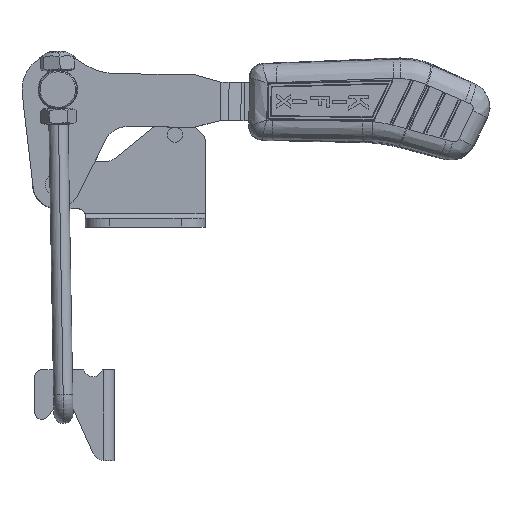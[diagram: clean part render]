
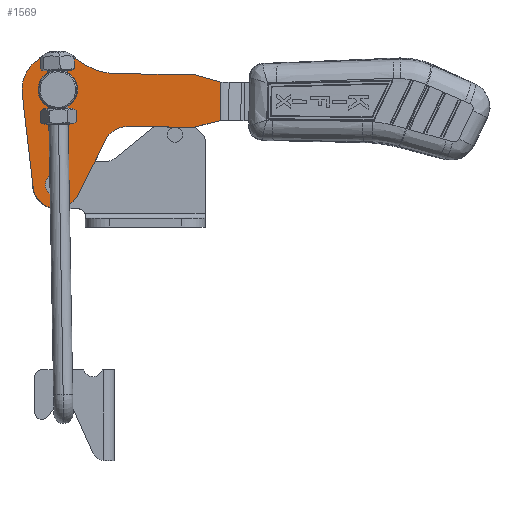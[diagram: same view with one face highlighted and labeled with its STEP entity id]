
A CAD part, top view. The second image highlights one B-rep face of the part: STEP entity #1569.
In plain terms, the highlighted planar face has unit normal (0, 0, 1).
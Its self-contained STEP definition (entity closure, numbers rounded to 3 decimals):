
#119 = VERTEX_POINT ( 'NONE', #25333 ) ;
#442 = CARTESIAN_POINT ( 'NONE',  ( -120.981, 11., 8.5 ) ) ;
#639 = AXIS2_PLACEMENT_3D ( 'NONE', #8387, #5442, #19912 ) ;
#675 = ORIENTED_EDGE ( 'NONE', *, *, #24938, .T. ) ;
#1003 = ORIENTED_EDGE ( 'NONE', *, *, #5785, .T. ) ;
#1070 = DIRECTION ( 'NONE',  ( 0., 0., -1. ) ) ;
#1242 = CARTESIAN_POINT ( 'NONE',  ( -76.974, 0., 8.5 ) ) ;
#1569 = ADVANCED_FACE ( 'NONE', ( #7116, #22292, #21678 ), #11172, .F. ) ;
#1775 = CIRCLE ( 'NONE', #2156, 4. ) ;
#1977 = VERTEX_POINT ( 'NONE', #10854 ) ;
#1990 = CARTESIAN_POINT ( 'NONE',  ( -76.598, -7.95, 8.5 ) ) ;
#2156 = AXIS2_PLACEMENT_3D ( 'NONE', #10132, #18004, #10976 ) ;
#2225 = VERTEX_POINT ( 'NONE', #12996 ) ;
#2306 = DIRECTION ( 'NONE',  ( 0.436, 0.9, 0. ) ) ;
#2315 = ORIENTED_EDGE ( 'NONE', *, *, #3056, .F. ) ;
#2505 = VECTOR ( 'NONE', #17842, 1000. ) ;
#2530 = VERTEX_POINT ( 'NONE', #19256 ) ;
#3056 = EDGE_CURVE ( 'NONE', #22996, #23607, #1775, .T. ) ;
#3894 = EDGE_CURVE ( 'NONE', #18681, #1977, #22221, .T. ) ;
#3987 = VERTEX_POINT ( 'NONE', #8369 ) ;
#4506 = DIRECTION ( 'NONE',  ( 0., 0., 1. ) ) ;
#4761 = VECTOR ( 'NONE', #2306, 1000. ) ;
#4939 = LINE ( 'NONE', #1242, #14855 ) ;
#5442 = DIRECTION ( 'NONE',  ( 0., 0., -1. ) ) ;
#5453 = ORIENTED_EDGE ( 'NONE', *, *, #3894, .T. ) ;
#5785 = EDGE_CURVE ( 'NONE', #20812, #119, #20002, .T. ) ;
#5800 = AXIS2_PLACEMENT_3D ( 'NONE', #16407, #4506, #18384 ) ;
#6066 = DIRECTION ( 'NONE',  ( 0.129, -0.992, 0. ) ) ;
#6479 = LINE ( 'NONE', #23799, #11138 ) ;
#6836 = AXIS2_PLACEMENT_3D ( 'NONE', #9842, #15803, #21691 ) ;
#6840 = CARTESIAN_POINT ( 'NONE',  ( -144.981, -35.8, 8.5 ) ) ;
#7116 = FACE_OUTER_BOUND ( 'NONE', #10924, .T. ) ;
#7522 = EDGE_CURVE ( 'NONE', #14761, #3987, #17877, .T. ) ;
#7583 = CARTESIAN_POINT ( 'NONE',  ( -120.981, 36., 8.5 ) ) ;
#8149 = EDGE_CURVE ( 'NONE', #23607, #22996, #24925, .T. ) ;
#8281 = CARTESIAN_POINT ( 'NONE',  ( -135.981, 16., 8.5 ) ) ;
#8369 = CARTESIAN_POINT ( 'NONE',  ( -136.731, 4., 8.5 ) ) ;
#8387 = CARTESIAN_POINT ( 'NONE',  ( 1.019, 0., 8.5 ) ) ;
#8400 = ORIENTED_EDGE ( 'NONE', *, *, #10123, .T. ) ;
#8570 = CARTESIAN_POINT ( 'NONE',  ( -87.981, 11., 8.5 ) ) ;
#8587 = EDGE_CURVE ( 'NONE', #9346, #9775, #18770, .T. ) ;
#8825 = ORIENTED_EDGE ( 'NONE', *, *, #11549, .F. ) ;
#8856 = DIRECTION ( 'NONE',  ( 1., 0., 0. ) ) ;
#9219 = CARTESIAN_POINT ( 'NONE',  ( 1.019, 11., 8.5 ) ) ;
#9346 = VERTEX_POINT ( 'NONE', #15707 ) ;
#9426 = LINE ( 'NONE', #10219, #4761 ) ;
#9482 = VECTOR ( 'NONE', #22391, 1000. ) ;
#9589 = DIRECTION ( 'NONE',  ( 1., 0., 0. ) ) ;
#9775 = VERTEX_POINT ( 'NONE', #11276 ) ;
#9842 = CARTESIAN_POINT ( 'NONE',  ( -144.981, 4., 8.5 ) ) ;
#10123 = EDGE_CURVE ( 'NONE', #119, #11189, #9426, .T. ) ;
#10132 = CARTESIAN_POINT ( 'NONE',  ( -144.981, -35.8, 8.5 ) ) ;
#10175 = ORIENTED_EDGE ( 'NONE', *, *, #12132, .T. ) ;
#10219 = CARTESIAN_POINT ( 'NONE',  ( -136.092, -40.101, 8.5 ) ) ;
#10309 = CARTESIAN_POINT ( 'NONE',  ( -153.231, 4., 8.5 ) ) ;
#10854 = CARTESIAN_POINT ( 'NONE',  ( -159.856, 2.069, 8.5 ) ) ;
#10924 = EDGE_LOOP ( 'NONE', ( #11370, #23559, #675, #25052, #5453, #11059, #1003, #8400, #21494, #10175, #8825 ) ) ;
#10976 = DIRECTION ( 'NONE',  ( 1., 0., 0. ) ) ;
#11059 = ORIENTED_EDGE ( 'NONE', *, *, #23606, .T. ) ;
#11138 = VECTOR ( 'NONE', #6066, 1000. ) ;
#11172 = PLANE ( 'NONE',  #639 ) ;
#11189 = VERTEX_POINT ( 'NONE', #22268 ) ;
#11201 = EDGE_CURVE ( 'NONE', #3987, #14761, #24832, .T. ) ;
#11276 = CARTESIAN_POINT ( 'NONE',  ( -76.974, 8.051, 8.5 ) ) ;
#11329 = CARTESIAN_POINT ( 'NONE',  ( -144.981, 4., 8.5 ) ) ;
#11370 = ORIENTED_EDGE ( 'NONE', *, *, #23328, .T. ) ;
#11549 = EDGE_CURVE ( 'NONE', #2530, #2225, #16511, .T. ) ;
#12132 = EDGE_CURVE ( 'NONE', #12236, #2225, #18347, .T. ) ;
#12236 = VERTEX_POINT ( 'NONE', #19999 ) ;
#12470 = CIRCLE ( 'NONE', #14630, 10. ) ;
#12553 = AXIS2_PLACEMENT_3D ( 'NONE', #6840, #20705, #8856 ) ;
#12947 = CARTESIAN_POINT ( 'NONE',  ( -115.74, -21., 8.5 ) ) ;
#12996 = CARTESIAN_POINT ( 'NONE',  ( -87.981, -11., 8.5 ) ) ;
#13294 = DIRECTION ( 'NONE',  ( 1., 0., 0. ) ) ;
#13935 = DIRECTION ( 'NONE',  ( 0., 0., 1. ) ) ;
#13945 = CARTESIAN_POINT ( 'NONE',  ( -140.981, -35.8, 8.5 ) ) ;
#14346 = VERTEX_POINT ( 'NONE', #442 ) ;
#14630 = AXIS2_PLACEMENT_3D ( 'NONE', #12947, #1070, #14951 ) ;
#14670 = AXIS2_PLACEMENT_3D ( 'NONE', #16154, #13935, #14825 ) ;
#14761 = VERTEX_POINT ( 'NONE', #10309 ) ;
#14825 = DIRECTION ( 'NONE',  ( 1., 0., 0. ) ) ;
#14855 = VECTOR ( 'NONE', #22986, 1000. ) ;
#14951 = DIRECTION ( 'NONE',  ( 1., 0., 0. ) ) ;
#15654 = CARTESIAN_POINT ( 'NONE',  ( -148.981, -35.8, 8.5 ) ) ;
#15707 = CARTESIAN_POINT ( 'NONE',  ( -87.981, 11., 8.5 ) ) ;
#15777 = EDGE_LOOP ( 'NONE', ( #18186, #25071 ) ) ;
#15803 = DIRECTION ( 'NONE',  ( 0., 0., 1. ) ) ;
#15841 = CARTESIAN_POINT ( 'NONE',  ( 1.019, -11., 8.5 ) ) ;
#16154 = CARTESIAN_POINT ( 'NONE',  ( -144.981, -35.8, 8.5 ) ) ;
#16407 = CARTESIAN_POINT ( 'NONE',  ( -144.981, 4., 8.5 ) ) ;
#16511 = LINE ( 'NONE', #1990, #25121 ) ;
#17309 = CARTESIAN_POINT ( 'NONE',  ( -154.774, -37.072, 8.5 ) ) ;
#17842 = DIRECTION ( 'NONE',  ( 1., 0., 0. ) ) ;
#17877 = CIRCLE ( 'NONE', #25427, 8.25 ) ;
#18004 = DIRECTION ( 'NONE',  ( 0., 0., 1. ) ) ;
#18172 = AXIS2_PLACEMENT_3D ( 'NONE', #7583, #21429, #9589 ) ;
#18186 = ORIENTED_EDGE ( 'NONE', *, *, #11201, .F. ) ;
#18347 = LINE ( 'NONE', #15841, #2505 ) ;
#18384 = DIRECTION ( 'NONE',  ( 1., 0., 0. ) ) ;
#18681 = VERTEX_POINT ( 'NONE', #8281 ) ;
#18770 = LINE ( 'NONE', #8570, #9482 ) ;
#18844 = VECTOR ( 'NONE', #21071, 1000. ) ;
#18900 = CIRCLE ( 'NONE', #18172, 25. ) ;
#19256 = CARTESIAN_POINT ( 'NONE',  ( -76.974, -8.051, 8.5 ) ) ;
#19912 = DIRECTION ( 'NONE',  ( 1., 0., 0. ) ) ;
#19999 = CARTESIAN_POINT ( 'NONE',  ( -115.74, -11., 8.5 ) ) ;
#20002 = CIRCLE ( 'NONE', #14670, 9.875 ) ;
#20688 = EDGE_CURVE ( 'NONE', #11189, #12236, #12470, .T. ) ;
#20705 = DIRECTION ( 'NONE',  ( 0., 0., 1. ) ) ;
#20812 = VERTEX_POINT ( 'NONE', #17309 ) ;
#21071 = DIRECTION ( 'NONE',  ( -1., 0., 0. ) ) ;
#21429 = DIRECTION ( 'NONE',  ( 0., 0., -1. ) ) ;
#21494 = ORIENTED_EDGE ( 'NONE', *, *, #20688, .T. ) ;
#21678 = FACE_BOUND ( 'NONE', #15777, .T. ) ;
#21691 = DIRECTION ( 'NONE',  ( 1., 0., 0. ) ) ;
#21842 = DIRECTION ( 'NONE',  ( -0.966, -0.259, 0. ) ) ;
#22221 = CIRCLE ( 'NONE', #6836, 15. ) ;
#22268 = CARTESIAN_POINT ( 'NONE',  ( -124.741, -16.644, 8.5 ) ) ;
#22292 = FACE_BOUND ( 'NONE', #22836, .T. ) ;
#22391 = DIRECTION ( 'NONE',  ( 0.966, -0.259, 0. ) ) ;
#22836 = EDGE_LOOP ( 'NONE', ( #23443, #2315 ) ) ;
#22986 = DIRECTION ( 'NONE',  ( 0., 1., 0. ) ) ;
#22996 = VERTEX_POINT ( 'NONE', #15654 ) ;
#23328 = EDGE_CURVE ( 'NONE', #2530, #9775, #4939, .T. ) ;
#23407 = EDGE_CURVE ( 'NONE', #14346, #18681, #18900, .T. ) ;
#23443 = ORIENTED_EDGE ( 'NONE', *, *, #8149, .F. ) ;
#23455 = LINE ( 'NONE', #9219, #18844 ) ;
#23559 = ORIENTED_EDGE ( 'NONE', *, *, #8587, .F. ) ;
#23606 = EDGE_CURVE ( 'NONE', #1977, #20812, #6479, .T. ) ;
#23607 = VERTEX_POINT ( 'NONE', #13945 ) ;
#23799 = CARTESIAN_POINT ( 'NONE',  ( -154.774, -37.072, 8.5 ) ) ;
#24832 = CIRCLE ( 'NONE', #5800, 8.25 ) ;
#24925 = CIRCLE ( 'NONE', #12553, 4. ) ;
#24938 = EDGE_CURVE ( 'NONE', #9346, #14346, #23455, .T. ) ;
#25052 = ORIENTED_EDGE ( 'NONE', *, *, #23407, .T. ) ;
#25071 = ORIENTED_EDGE ( 'NONE', *, *, #7522, .F. ) ;
#25121 = VECTOR ( 'NONE', #21842, 1000. ) ;
#25125 = DIRECTION ( 'NONE',  ( 0., 0., 1. ) ) ;
#25333 = CARTESIAN_POINT ( 'NONE',  ( -136.092, -40.101, 8.5 ) ) ;
#25427 = AXIS2_PLACEMENT_3D ( 'NONE', #11329, #25125, #13294 ) ;
